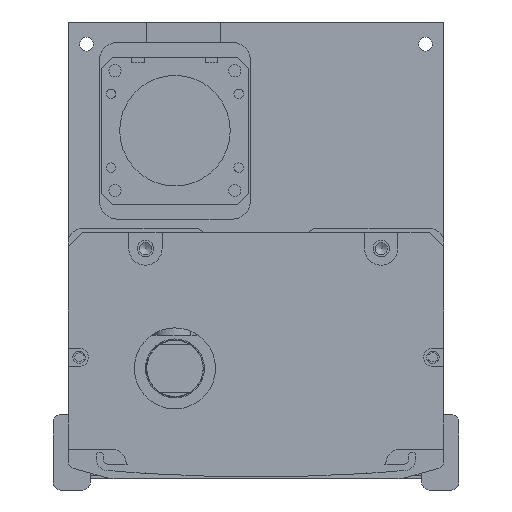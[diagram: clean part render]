
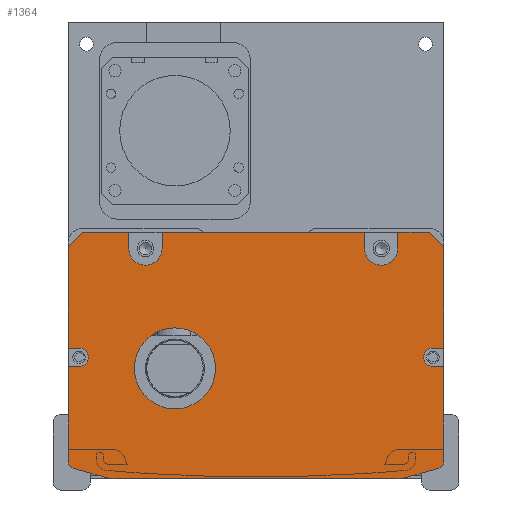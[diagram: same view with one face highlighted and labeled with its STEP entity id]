
A CAD part, front view. The second image highlights one B-rep face of the part: STEP entity #1364.
In plain terms, the highlighted planar face has unit normal (0, -1, 0).
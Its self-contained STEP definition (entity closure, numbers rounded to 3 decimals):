
#1364=ADVANCED_FACE('',(#4036,#4037),#2163,.F.);
#2163=PLANE('',#13208);
#2555=LINE('',#18918,#3317);
#2556=LINE('',#18921,#3318);
#2557=LINE('',#18923,#3319);
#2558=LINE('',#18925,#3320);
#2559=LINE('',#18929,#3321);
#2560=LINE('',#18931,#3322);
#2561=LINE('',#18933,#3323);
#2562=LINE('',#18937,#3324);
#2563=LINE('',#18939,#3325);
#2564=LINE('',#18941,#3326);
#2565=LINE('',#18943,#3327);
#2566=LINE('',#18945,#3328);
#2567=LINE('',#18949,#3329);
#2568=LINE('',#18951,#3330);
#2569=LINE('',#18955,#3331);
#2570=LINE('',#18959,#3332);
#2571=LINE('',#18963,#3333);
#2572=LINE('',#18967,#3334);
#2573=LINE('',#18969,#3335);
#2574=LINE('',#18973,#3336);
#3317=VECTOR('',#14979,1.);
#3318=VECTOR('',#14980,1.);
#3319=VECTOR('',#14981,1.);
#3320=VECTOR('',#14982,1.);
#3321=VECTOR('',#14985,1.);
#3322=VECTOR('',#14986,1.);
#3323=VECTOR('',#14987,1.);
#3324=VECTOR('',#14990,1.);
#3325=VECTOR('',#14991,1.);
#3326=VECTOR('',#14992,1.);
#3327=VECTOR('',#14993,1.);
#3328=VECTOR('',#14994,1.);
#3329=VECTOR('',#14997,1.);
#3330=VECTOR('',#14998,1.);
#3331=VECTOR('',#15001,1.);
#3332=VECTOR('',#15004,1.);
#3333=VECTOR('',#15007,1.);
#3334=VECTOR('',#15010,1.);
#3335=VECTOR('',#15011,1.);
#3336=VECTOR('',#15014,1.);
#4036=FACE_BOUND('',#4736,.T.);
#4037=FACE_BOUND('',#4737,.T.);
#4736=EDGE_LOOP('',(#6051,#6052,#6053,#6054,#6055,#6056,#6057,#6058,#6059,
#6060,#6061,#6062,#6063,#6064,#6065,#6066,#6067,#6068,#6069,#6070,#6071,
#6072,#6073,#6074,#6075,#6076,#6077,#6078));
#4737=EDGE_LOOP('',(#6079));
#6051=ORIENTED_EDGE('',*,*,#10779,.T.);
#6052=ORIENTED_EDGE('',*,*,#10780,.T.);
#6053=ORIENTED_EDGE('',*,*,#10781,.T.);
#6054=ORIENTED_EDGE('',*,*,#10782,.F.);
#6055=ORIENTED_EDGE('',*,*,#10783,.T.);
#6056=ORIENTED_EDGE('',*,*,#10784,.F.);
#6057=ORIENTED_EDGE('',*,*,#10785,.T.);
#6058=ORIENTED_EDGE('',*,*,#10786,.F.);
#6059=ORIENTED_EDGE('',*,*,#10787,.T.);
#6060=ORIENTED_EDGE('',*,*,#10788,.F.);
#6061=ORIENTED_EDGE('',*,*,#10789,.T.);
#6062=ORIENTED_EDGE('',*,*,#10790,.T.);
#6063=ORIENTED_EDGE('',*,*,#10791,.T.);
#6064=ORIENTED_EDGE('',*,*,#10792,.T.);
#6065=ORIENTED_EDGE('',*,*,#10793,.T.);
#6066=ORIENTED_EDGE('',*,*,#10794,.T.);
#6067=ORIENTED_EDGE('',*,*,#10795,.T.);
#6068=ORIENTED_EDGE('',*,*,#10796,.T.);
#6069=ORIENTED_EDGE('',*,*,#10797,.T.);
#6070=ORIENTED_EDGE('',*,*,#10798,.T.);
#6071=ORIENTED_EDGE('',*,*,#10799,.T.);
#6072=ORIENTED_EDGE('',*,*,#10800,.T.);
#6073=ORIENTED_EDGE('',*,*,#10801,.T.);
#6074=ORIENTED_EDGE('',*,*,#10802,.T.);
#6075=ORIENTED_EDGE('',*,*,#10803,.T.);
#6076=ORIENTED_EDGE('',*,*,#10804,.T.);
#6077=ORIENTED_EDGE('',*,*,#10805,.T.);
#6078=ORIENTED_EDGE('',*,*,#10806,.T.);
#6079=ORIENTED_EDGE('',*,*,#10807,.T.);
#9518=VERTEX_POINT('',#18919);
#9519=VERTEX_POINT('',#18920);
#9520=VERTEX_POINT('',#18922);
#9521=VERTEX_POINT('',#18924);
#9522=VERTEX_POINT('',#18926);
#9523=VERTEX_POINT('',#18928);
#9524=VERTEX_POINT('',#18930);
#9525=VERTEX_POINT('',#18932);
#9526=VERTEX_POINT('',#18934);
#9527=VERTEX_POINT('',#18936);
#9528=VERTEX_POINT('',#18938);
#9529=VERTEX_POINT('',#18940);
#9530=VERTEX_POINT('',#18942);
#9531=VERTEX_POINT('',#18944);
#9532=VERTEX_POINT('',#18946);
#9533=VERTEX_POINT('',#18948);
#9534=VERTEX_POINT('',#18950);
#9535=VERTEX_POINT('',#18952);
#9536=VERTEX_POINT('',#18954);
#9537=VERTEX_POINT('',#18956);
#9538=VERTEX_POINT('',#18958);
#9539=VERTEX_POINT('',#18960);
#9540=VERTEX_POINT('',#18962);
#9541=VERTEX_POINT('',#18964);
#9542=VERTEX_POINT('',#18966);
#9543=VERTEX_POINT('',#18968);
#9544=VERTEX_POINT('',#18970);
#9545=VERTEX_POINT('',#18972);
#9546=VERTEX_POINT('',#18975);
#10779=EDGE_CURVE('',#9518,#9519,#2555,.T.);
#10780=EDGE_CURVE('',#9519,#9520,#2556,.T.);
#10781=EDGE_CURVE('',#9520,#9521,#2557,.T.);
#10782=EDGE_CURVE('',#9522,#9521,#2558,.T.);
#10783=EDGE_CURVE('',#9522,#9523,#12418,.T.);
#10784=EDGE_CURVE('',#9524,#9523,#2559,.T.);
#10785=EDGE_CURVE('',#9524,#9525,#2560,.T.);
#10786=EDGE_CURVE('',#9526,#9525,#2561,.T.);
#10787=EDGE_CURVE('',#9526,#9527,#12419,.T.);
#10788=EDGE_CURVE('',#9528,#9527,#2562,.T.);
#10789=EDGE_CURVE('',#9528,#9529,#2563,.T.);
#10790=EDGE_CURVE('',#9529,#9530,#2564,.T.);
#10791=EDGE_CURVE('',#9530,#9531,#2565,.T.);
#10792=EDGE_CURVE('',#9531,#9532,#2566,.T.);
#10793=EDGE_CURVE('',#9532,#9533,#12420,.T.);
#10794=EDGE_CURVE('',#9533,#9534,#2567,.T.);
#10795=EDGE_CURVE('',#9534,#9535,#2568,.T.);
#10796=EDGE_CURVE('',#9535,#9536,#12421,.T.);
#10797=EDGE_CURVE('',#9536,#9537,#2569,.T.);
#10798=EDGE_CURVE('',#9537,#9538,#12422,.T.);
#10799=EDGE_CURVE('',#9538,#9539,#2570,.T.);
#10800=EDGE_CURVE('',#9539,#9540,#12423,.T.);
#10801=EDGE_CURVE('',#9540,#9541,#2571,.T.);
#10802=EDGE_CURVE('',#9541,#9542,#12424,.T.);
#10803=EDGE_CURVE('',#9542,#9543,#2572,.T.);
#10804=EDGE_CURVE('',#9543,#9544,#2573,.T.);
#10805=EDGE_CURVE('',#9544,#9545,#12425,.T.);
#10806=EDGE_CURVE('',#9545,#9518,#2574,.T.);
#10807=EDGE_CURVE('',#9546,#9546,#12426,.T.);
#12418=CIRCLE('',#13199,4.5);
#12419=CIRCLE('',#13200,4.5);
#12420=CIRCLE('',#13201,2.5);
#12421=CIRCLE('',#13202,2.);
#12422=CIRCLE('',#13203,10.);
#12423=CIRCLE('',#13204,10.);
#12424=CIRCLE('',#13205,2.);
#12425=CIRCLE('',#13206,2.5);
#12426=CIRCLE('',#13207,11.);
#13199=AXIS2_PLACEMENT_3D('',#18927,#14983,#14984);
#13200=AXIS2_PLACEMENT_3D('',#18935,#14988,#14989);
#13201=AXIS2_PLACEMENT_3D('',#18947,#14995,#14996);
#13202=AXIS2_PLACEMENT_3D('',#18953,#14999,#15000);
#13203=AXIS2_PLACEMENT_3D('',#18957,#15002,#15003);
#13204=AXIS2_PLACEMENT_3D('',#18961,#15005,#15006);
#13205=AXIS2_PLACEMENT_3D('',#18965,#15008,#15009);
#13206=AXIS2_PLACEMENT_3D('',#18971,#15012,#15013);
#13207=AXIS2_PLACEMENT_3D('',#18974,#15015,#15016);
#13208=AXIS2_PLACEMENT_3D('',#18976,#15017,#15018);
#14979=DIRECTION('',(0.,0.,1.));
#14980=DIRECTION('',(-0.707,0.,0.707));
#14981=DIRECTION('',(-1.,0.,0.));
#14982=DIRECTION('',(0.,0.,1.));
#14983=DIRECTION('',(0.,1.,0.));
#14984=DIRECTION('',(0.,0.,1.));
#14985=DIRECTION('',(0.,0.,-1.));
#14986=DIRECTION('',(-1.,0.,0.));
#14987=DIRECTION('',(0.,0.,1.));
#14988=DIRECTION('',(0.,1.,0.));
#14989=DIRECTION('',(0.,0.,1.));
#14990=DIRECTION('',(0.,0.,-1.));
#14991=DIRECTION('',(-1.,0.,0.));
#14992=DIRECTION('',(-0.707,0.,-0.707));
#14993=DIRECTION('',(0.,0.,-1.));
#14994=DIRECTION('',(1.,0.,0.));
#14995=DIRECTION('',(0.,1.,0.));
#14996=DIRECTION('',(0.,0.,1.));
#14997=DIRECTION('',(-1.,0.,0.));
#14998=DIRECTION('',(0.,0.,-1.));
#14999=DIRECTION('',(0.,-1.,0.));
#15000=DIRECTION('',(0.,0.,1.));
#15001=DIRECTION('',(0.963,0.,-0.269));
#15002=DIRECTION('',(0.,-1.,0.));
#15003=DIRECTION('',(0.,0.,1.));
#15004=DIRECTION('',(1.,0.,0.));
#15005=DIRECTION('',(0.,-1.,0.));
#15006=DIRECTION('',(0.,0.,-1.));
#15007=DIRECTION('',(0.963,0.,0.269));
#15008=DIRECTION('',(0.,-1.,0.));
#15009=DIRECTION('',(0.,0.,-1.));
#15010=DIRECTION('',(0.,0.,1.));
#15011=DIRECTION('',(-1.,0.,0.));
#15012=DIRECTION('',(0.,1.,0.));
#15013=DIRECTION('',(0.,0.,1.));
#15014=DIRECTION('',(1.,0.,0.));
#15015=DIRECTION('',(0.,1.,0.));
#15016=DIRECTION('',(0.,0.,1.));
#15017=DIRECTION('',(0.,1.,0.));
#15018=DIRECTION('',(-1.,0.,0.));
#18918=CARTESIAN_POINT('',(47.808,-667.5,-1.));
#18919=CARTESIAN_POINT('',(47.808,-667.5,-32.5));
#18920=CARTESIAN_POINT('',(47.808,-667.5,-5.));
#18921=CARTESIAN_POINT('',(43.808,-667.5,-1.));
#18922=CARTESIAN_POINT('',(43.808,-667.5,-1.));
#18923=CARTESIAN_POINT('',(-3.192,-667.5,-1.));
#18924=CARTESIAN_POINT('',(35.308,-667.5,-1.));
#18925=CARTESIAN_POINT('',(35.308,-667.5,-1.));
#18926=CARTESIAN_POINT('',(35.308,-667.5,-5.5));
#18927=CARTESIAN_POINT('',(30.808,-667.5,-5.5));
#18928=CARTESIAN_POINT('',(26.308,-667.5,-5.5));
#18929=CARTESIAN_POINT('',(26.308,-667.5,-1.));
#18930=CARTESIAN_POINT('',(26.308,-667.5,-1.));
#18931=CARTESIAN_POINT('',(-54.192,-667.5,-1.));
#18932=CARTESIAN_POINT('',(-28.692,-667.5,-1.));
#18933=CARTESIAN_POINT('',(-28.692,-667.5,-3.5));
#18934=CARTESIAN_POINT('',(-28.692,-667.5,-5.5));
#18935=CARTESIAN_POINT('',(-33.192,-667.5,-5.5));
#18936=CARTESIAN_POINT('',(-37.692,-667.5,-5.5));
#18937=CARTESIAN_POINT('',(-37.692,-667.5,-1.));
#18938=CARTESIAN_POINT('',(-37.692,-667.5,-1.));
#18939=CARTESIAN_POINT('',(-54.192,-667.5,-1.));
#18940=CARTESIAN_POINT('',(-50.192,-667.5,-1.));
#18941=CARTESIAN_POINT('',(-54.192,-667.5,-5.));
#18942=CARTESIAN_POINT('',(-54.192,-667.5,-5.));
#18943=CARTESIAN_POINT('',(-54.192,-667.5,-62.));
#18944=CARTESIAN_POINT('',(-54.192,-667.5,-32.5));
#18945=CARTESIAN_POINT('',(-3.192,-667.5,-32.5));
#18946=CARTESIAN_POINT('',(-51.192,-667.5,-32.5));
#18947=CARTESIAN_POINT('',(-51.192,-667.5,-35.));
#18948=CARTESIAN_POINT('',(-51.192,-667.5,-37.5));
#18949=CARTESIAN_POINT('',(-3.192,-667.5,-37.5));
#18950=CARTESIAN_POINT('',(-54.192,-667.5,-37.5));
#18951=CARTESIAN_POINT('',(-54.192,-667.5,-62.));
#18952=CARTESIAN_POINT('',(-54.192,-667.5,-63.212));
#18953=CARTESIAN_POINT('',(-52.192,-667.5,-63.212));
#18954=CARTESIAN_POINT('',(-52.731,-667.5,-65.138));
#18955=CARTESIAN_POINT('',(-55.807,-667.5,-64.279));
#18956=CARTESIAN_POINT('',(-43.809,-667.5,-67.631));
#18957=CARTESIAN_POINT('',(-41.118,-667.5,-58.));
#18958=CARTESIAN_POINT('',(-41.118,-667.5,-68.));
#18959=CARTESIAN_POINT('',(-54.692,-667.5,-68.));
#18960=CARTESIAN_POINT('',(34.733,-667.5,-68.));
#18961=CARTESIAN_POINT('',(34.733,-667.5,-58.));
#18962=CARTESIAN_POINT('',(37.424,-667.5,-67.631));
#18963=CARTESIAN_POINT('',(49.422,-667.5,-64.279));
#18964=CARTESIAN_POINT('',(46.346,-667.5,-65.138));
#18965=CARTESIAN_POINT('',(45.808,-667.5,-63.212));
#18966=CARTESIAN_POINT('',(47.808,-667.5,-63.212));
#18967=CARTESIAN_POINT('',(47.808,-667.5,-1.));
#18968=CARTESIAN_POINT('',(47.808,-667.5,-37.5));
#18969=CARTESIAN_POINT('',(-3.192,-667.5,-37.5));
#18970=CARTESIAN_POINT('',(44.808,-667.5,-37.5));
#18971=CARTESIAN_POINT('',(44.808,-667.5,-35.));
#18972=CARTESIAN_POINT('',(44.808,-667.5,-32.5));
#18973=CARTESIAN_POINT('',(-3.192,-667.5,-32.5));
#18974=CARTESIAN_POINT('',(-25.192,-667.5,-38.));
#18975=CARTESIAN_POINT('',(-25.192,-667.5,-27.));
#18976=CARTESIAN_POINT('',(-3.192,-667.5,-1.));
